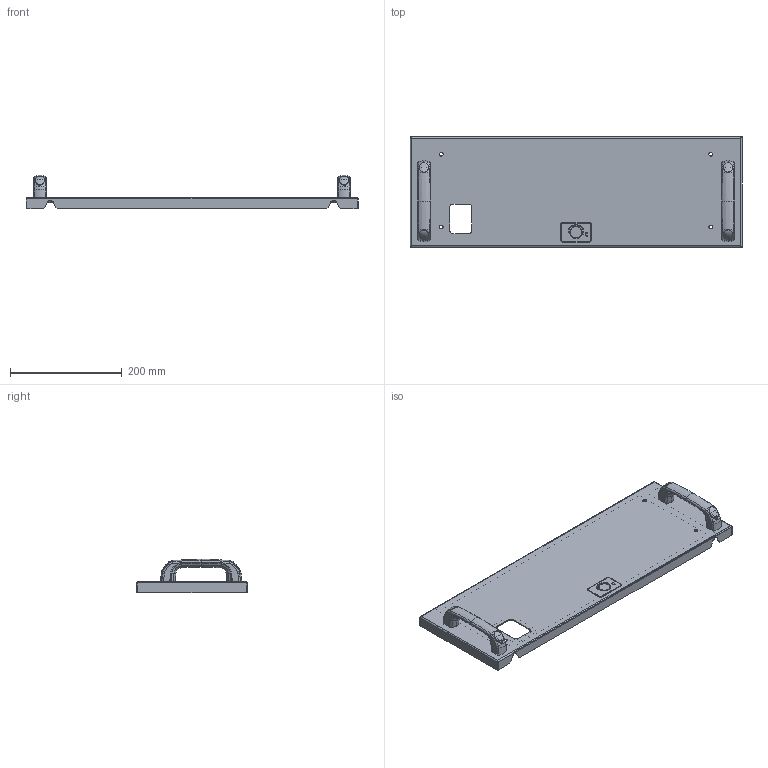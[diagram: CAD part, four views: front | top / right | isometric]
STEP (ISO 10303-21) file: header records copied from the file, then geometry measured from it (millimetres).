
FILE_DESCRIPTION(('CAx-IF Rec.Pracs.---Model Styling and Organization---1.2---2011-12-15','CAx-IF Rec.Pracs.---Geometric and Assembly Validation Properties---4.1---2014-06-16','CAx-IF Rec.Pracs.---PMI Polyline Presentation---2.0---2013-05-24'),'2;1');
FILE_NAME('R5M2W4M1BF.stp','2021-05-05T12:19:43+03:00',(''),(''),'STEP Interface 4.4 by CT CoreTechnologie','3D_Evolution4.4 by CT CoreTechnologie','');
FILE_SCHEMA(('AUTOMOTIVE_DESIGN { 1 0 10303 214 1 1 1 1 }'));
Length unit declared in the file: millimetre
Products named in the file (16): R5M2W4M1BF; AC00C148_AC00C148; RB.1166.00.00.0 ÑÁ_-01; RB.1166.00.05.0; PF 3.5x7 RAMmcc 2.0_00; RB.1166.00.01.0_-01; RB.1166.00.02.0_¢ à 1; RB.1166.00.04.0_-00; PF 7x14 RAMmcc 2.0_4å1; AC00C061_AC00C061; Ì6õ12-A5100231_straight; 4.444.002(1); PR.DT477.120.02-poprawa; PR.DT477.120.01; countersunk flat head cross recess screw_din_DIN EN ISO 7046-1 - M6 x 16 - Z - 16N; 4.444.002(2)
Assembly tree (24 placements, depth 3):
  R5M2W4M1BF
    AC00C148_AC00C148  x2
    RB.1166.00.00.0 ÑÁ_-01
      RB.1166.00.05.0  x2
      PF 3.5x7 RAMmcc 2.0_00
      RB.1166.00.01.0_-01
      RB.1166.00.02.0_¢ à 1
      RB.1166.00.04.0_-00
      PF 7x14 RAMmcc 2.0_4å1
      AC00C061_AC00C061
      Ì6õ12-A5100231_straight
    4.444.002(1)
      PR.DT477.120.02-poprawa  x2
      PR.DT477.120.01
    countersunk flat head cross recess screw_din_DIN EN ISO 7046-1 - M6 x 16 - Z - 16N  x4
    4.444.002(2)
      PR.DT477.120.02-poprawa  x2
      PR.DT477.120.01
Bounding box: 594 x 197 x 60 mm (x, y, z)
Surface area: 388093.9 mm2 (no closed solid volume)
Topology: 0 solids, 29 shells, 1151 faces, 2971 edges, 1874 vertices
Faces by surface type: plane 468, bspline 450, cylinder 233
Entity records: 21692 total; most frequent: CARTESIAN_POINT 7136, ORIENTED_EDGE 2948, DIRECTION 2819, EDGE_CURVE 1474, AXIS2_PLACEMENT_3D 1017, VERTEX_POINT 938, VECTOR 785, LINE 785
